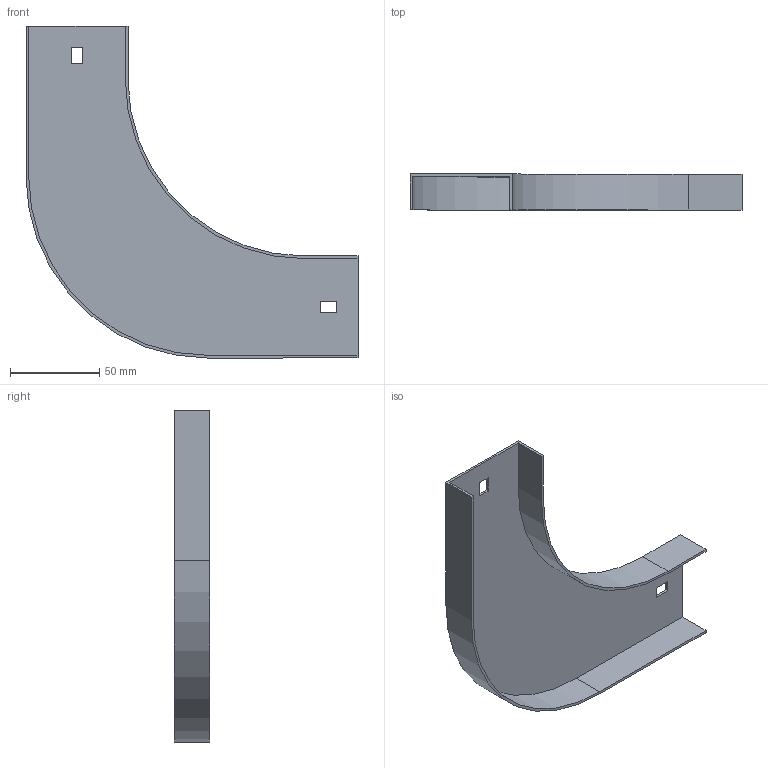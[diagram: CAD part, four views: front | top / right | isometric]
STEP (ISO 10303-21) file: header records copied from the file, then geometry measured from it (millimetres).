
FILE_DESCRIPTION (( 'STEP AP214' ), '1' );
FILE_NAME ('10G1P050.step', '2025-02-21T12:46:15', ( '' ), ( '' ), 'SwSTEP 2.0', 'SolidWorks 2023', '' );
FILE_SCHEMA (( 'AUTOMOTIVE_DESIGN' ));
Length unit declared in the file: millimetre
Products named in the file (1): 10G1P050
Bounding box: 185.5 x 20 x 185.5 mm (x, y, z)
Volume: 41523.3 mm3; surface area: 56552.6 mm2
Topology: 1 solids, 1 shells, 26 faces, 72 edges, 48 vertices
Faces by surface type: plane 22, cylinder 4
Entity records: 855 total; most frequent: CARTESIAN_POINT 147, ORIENTED_EDGE 144, DIRECTION 134, EDGE_CURVE 72, LINE 64, VECTOR 64, VERTEX_POINT 48, AXIS2_PLACEMENT_3D 35
